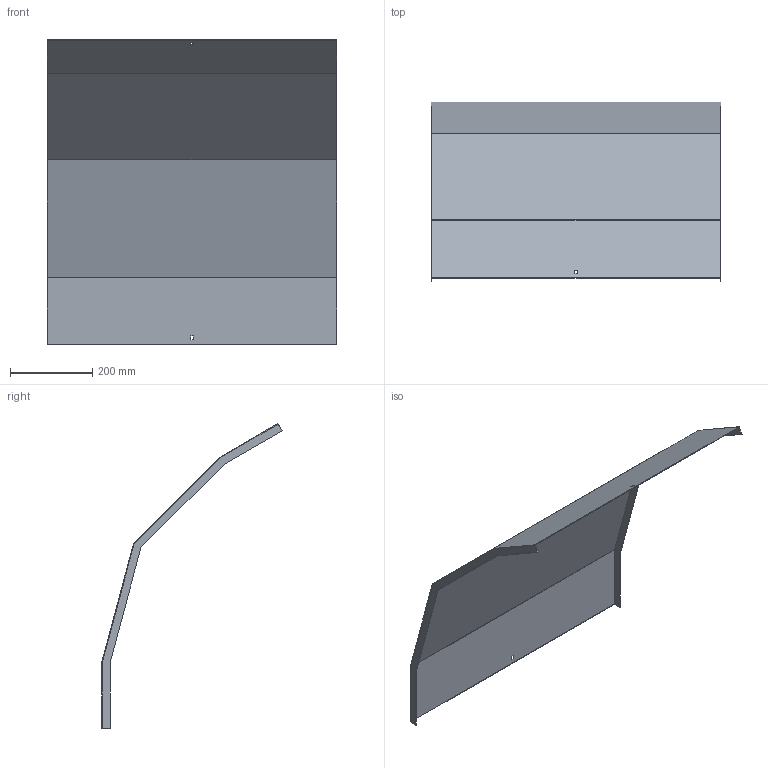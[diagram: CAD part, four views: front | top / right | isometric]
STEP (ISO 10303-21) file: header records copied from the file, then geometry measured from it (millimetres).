
FILE_DESCRIPTION (( 'STEP AP214' ), '1' );
FILE_NAME ('41N5C700.step', '2025-02-21T10:37:48', ( '' ), ( '' ), 'SwSTEP 2.0', 'SolidWorks 2023', '' );
FILE_SCHEMA (( 'AUTOMOTIVE_DESIGN' ));
Length unit declared in the file: millimetre
Products named in the file (1): 41N5C700
Bounding box: 703 x 437.72 x 740.83 mm (x, y, z)
Volume: 1018718 mm3; surface area: 1363300 mm2
Topology: 1 solids, 1 shells, 30 faces, 84 edges, 56 vertices
Faces by surface type: plane 30
Entity records: 979 total; most frequent: CARTESIAN_POINT 171, ORIENTED_EDGE 168, DIRECTION 146, EDGE_CURVE 84, VECTOR 84, LINE 84, VERTEX_POINT 56, EDGE_LOOP 34
